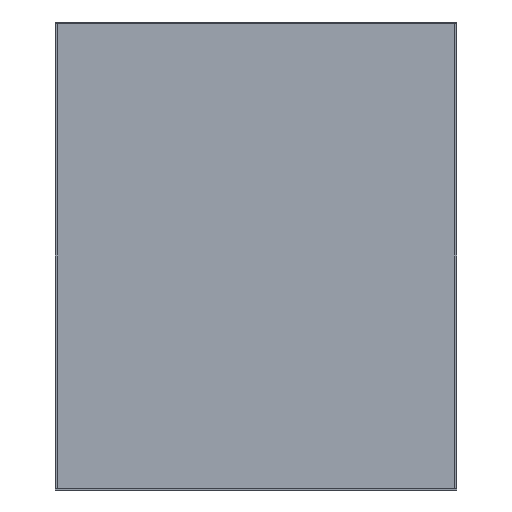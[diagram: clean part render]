
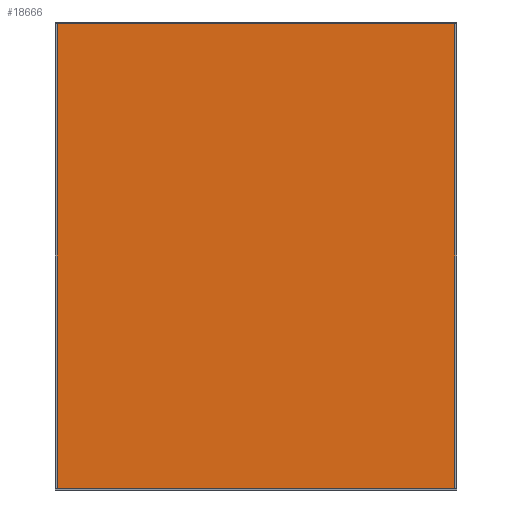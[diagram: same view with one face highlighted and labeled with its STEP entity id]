
A CAD part, front view. The second image highlights one B-rep face of the part: STEP entity #18666.
In plain terms, the highlighted planar face has unit normal (0, -1, 0).
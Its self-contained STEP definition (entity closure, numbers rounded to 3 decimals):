
#18450 = EDGE_CURVE('',#18451,#18453,#18455,.T.);
#18451 = VERTEX_POINT('',#18452);
#18452 = CARTESIAN_POINT('',(-0.155,-0.096,0.002)
  );
#18453 = VERTEX_POINT('',#18454);
#18454 = CARTESIAN_POINT('',(-0.155,-0.096,
    0.364));
#18455 = SURFACE_CURVE('',#18456,(#18460,#18472),.PCURVE_S1.);
#18456 = LINE('',#18457,#18458);
#18457 = CARTESIAN_POINT('',(-0.155,-0.096,0.002)
  );
#18458 = VECTOR('',#18459,1.);
#18459 = DIRECTION('',(0.,0.,1.));
#18460 = PCURVE('',#18461,#18466);
#18461 = PLANE('',#18462);
#18462 = AXIS2_PLACEMENT_3D('',#18463,#18464,#18465);
#18463 = CARTESIAN_POINT('',(-0.155,-0.096,0.002)
  );
#18464 = DIRECTION('',(1.,0.,0.));
#18465 = DIRECTION('',(0.,0.,1.));
#18466 = DEFINITIONAL_REPRESENTATION('',(#18467),#18471);
#18467 = LINE('',#18468,#18469);
#18468 = CARTESIAN_POINT('',(0.,0.));
#18469 = VECTOR('',#18470,1.);
#18470 = DIRECTION('',(1.,0.));
#18471 = ( GEOMETRIC_REPRESENTATION_CONTEXT(2) 
PARAMETRIC_REPRESENTATION_CONTEXT() REPRESENTATION_CONTEXT('2D SPACE',''
  ) );
#18472 = PCURVE('',#18473,#18478);
#18473 = PLANE('',#18474);
#18474 = AXIS2_PLACEMENT_3D('',#18475,#18476,#18477);
#18475 = CARTESIAN_POINT('',(-0.155,-0.096,0.002)
  );
#18476 = DIRECTION('',(0.,1.,0.));
#18477 = DIRECTION('',(0.,0.,1.));
#18478 = DEFINITIONAL_REPRESENTATION('',(#18479),#18483);
#18479 = LINE('',#18480,#18481);
#18480 = CARTESIAN_POINT('',(0.,0.));
#18481 = VECTOR('',#18482,1.);
#18482 = DIRECTION('',(1.,0.));
#18483 = ( GEOMETRIC_REPRESENTATION_CONTEXT(2) 
PARAMETRIC_REPRESENTATION_CONTEXT() REPRESENTATION_CONTEXT('2D SPACE',''
  ) );
#18501 = PLANE('',#18502);
#18502 = AXIS2_PLACEMENT_3D('',#18503,#18504,#18505);
#18503 = CARTESIAN_POINT('',(-0.155,-0.096,0.002)
  );
#18504 = DIRECTION('',(0.,0.,1.));
#18505 = DIRECTION('',(1.,0.,0.));
#18555 = PLANE('',#18556);
#18556 = AXIS2_PLACEMENT_3D('',#18557,#18558,#18559);
#18557 = CARTESIAN_POINT('',(-0.155,-0.096,
    0.364));
#18558 = DIRECTION('',(0.,0.,1.));
#18559 = DIRECTION('',(1.,0.,0.));
#18570 = EDGE_CURVE('',#18571,#18573,#18575,.T.);
#18571 = VERTEX_POINT('',#18572);
#18572 = CARTESIAN_POINT('',(0.155,-0.096,0.002)
  );
#18573 = VERTEX_POINT('',#18574);
#18574 = CARTESIAN_POINT('',(0.155,-0.096,
    0.364));
#18575 = SURFACE_CURVE('',#18576,(#18580,#18592),.PCURVE_S1.);
#18576 = LINE('',#18577,#18578);
#18577 = CARTESIAN_POINT('',(0.155,-0.096,0.002)
  );
#18578 = VECTOR('',#18579,1.);
#18579 = DIRECTION('',(0.,0.,1.));
#18580 = PCURVE('',#18581,#18586);
#18581 = PLANE('',#18582);
#18582 = AXIS2_PLACEMENT_3D('',#18583,#18584,#18585);
#18583 = CARTESIAN_POINT('',(0.155,-0.096,0.002)
  );
#18584 = DIRECTION('',(1.,0.,0.));
#18585 = DIRECTION('',(0.,0.,1.));
#18586 = DEFINITIONAL_REPRESENTATION('',(#18587),#18591);
#18587 = LINE('',#18588,#18589);
#18588 = CARTESIAN_POINT('',(0.,0.));
#18589 = VECTOR('',#18590,1.);
#18590 = DIRECTION('',(1.,0.));
#18591 = ( GEOMETRIC_REPRESENTATION_CONTEXT(2) 
PARAMETRIC_REPRESENTATION_CONTEXT() REPRESENTATION_CONTEXT('2D SPACE',''
  ) );
#18592 = PCURVE('',#18473,#18593);
#18593 = DEFINITIONAL_REPRESENTATION('',(#18594),#18598);
#18594 = LINE('',#18595,#18596);
#18595 = CARTESIAN_POINT('',(0.,0.31));
#18596 = VECTOR('',#18597,1.);
#18597 = DIRECTION('',(1.,0.));
#18598 = ( GEOMETRIC_REPRESENTATION_CONTEXT(2) 
PARAMETRIC_REPRESENTATION_CONTEXT() REPRESENTATION_CONTEXT('2D SPACE',''
  ) );
#18666 = ADVANCED_FACE('',(#18667),#18473,.F.);
#18667 = FACE_BOUND('',#18668,.F.);
#18668 = EDGE_LOOP('',(#18669,#18690,#18691,#18712));
#18669 = ORIENTED_EDGE('',*,*,#18670,.F.);
#18670 = EDGE_CURVE('',#18451,#18571,#18671,.T.);
#18671 = SURFACE_CURVE('',#18672,(#18676,#18683),.PCURVE_S1.);
#18672 = LINE('',#18673,#18674);
#18673 = CARTESIAN_POINT('',(-0.155,-0.096,0.002)
  );
#18674 = VECTOR('',#18675,1.);
#18675 = DIRECTION('',(1.,0.,0.));
#18676 = PCURVE('',#18473,#18677);
#18677 = DEFINITIONAL_REPRESENTATION('',(#18678),#18682);
#18678 = LINE('',#18679,#18680);
#18679 = CARTESIAN_POINT('',(0.,0.));
#18680 = VECTOR('',#18681,1.);
#18681 = DIRECTION('',(0.,1.));
#18682 = ( GEOMETRIC_REPRESENTATION_CONTEXT(2) 
PARAMETRIC_REPRESENTATION_CONTEXT() REPRESENTATION_CONTEXT('2D SPACE',''
  ) );
#18683 = PCURVE('',#18501,#18684);
#18684 = DEFINITIONAL_REPRESENTATION('',(#18685),#18689);
#18685 = LINE('',#18686,#18687);
#18686 = CARTESIAN_POINT('',(0.,0.));
#18687 = VECTOR('',#18688,1.);
#18688 = DIRECTION('',(1.,0.));
#18689 = ( GEOMETRIC_REPRESENTATION_CONTEXT(2) 
PARAMETRIC_REPRESENTATION_CONTEXT() REPRESENTATION_CONTEXT('2D SPACE',''
  ) );
#18690 = ORIENTED_EDGE('',*,*,#18450,.T.);
#18691 = ORIENTED_EDGE('',*,*,#18692,.T.);
#18692 = EDGE_CURVE('',#18453,#18573,#18693,.T.);
#18693 = SURFACE_CURVE('',#18694,(#18698,#18705),.PCURVE_S1.);
#18694 = LINE('',#18695,#18696);
#18695 = CARTESIAN_POINT('',(-0.155,-0.096,
    0.364));
#18696 = VECTOR('',#18697,1.);
#18697 = DIRECTION('',(1.,0.,0.));
#18698 = PCURVE('',#18473,#18699);
#18699 = DEFINITIONAL_REPRESENTATION('',(#18700),#18704);
#18700 = LINE('',#18701,#18702);
#18701 = CARTESIAN_POINT('',(0.362,0.));
#18702 = VECTOR('',#18703,1.);
#18703 = DIRECTION('',(0.,1.));
#18704 = ( GEOMETRIC_REPRESENTATION_CONTEXT(2) 
PARAMETRIC_REPRESENTATION_CONTEXT() REPRESENTATION_CONTEXT('2D SPACE',''
  ) );
#18705 = PCURVE('',#18555,#18706);
#18706 = DEFINITIONAL_REPRESENTATION('',(#18707),#18711);
#18707 = LINE('',#18708,#18709);
#18708 = CARTESIAN_POINT('',(0.,0.));
#18709 = VECTOR('',#18710,1.);
#18710 = DIRECTION('',(1.,0.));
#18711 = ( GEOMETRIC_REPRESENTATION_CONTEXT(2) 
PARAMETRIC_REPRESENTATION_CONTEXT() REPRESENTATION_CONTEXT('2D SPACE',''
  ) );
#18712 = ORIENTED_EDGE('',*,*,#18570,.F.);
